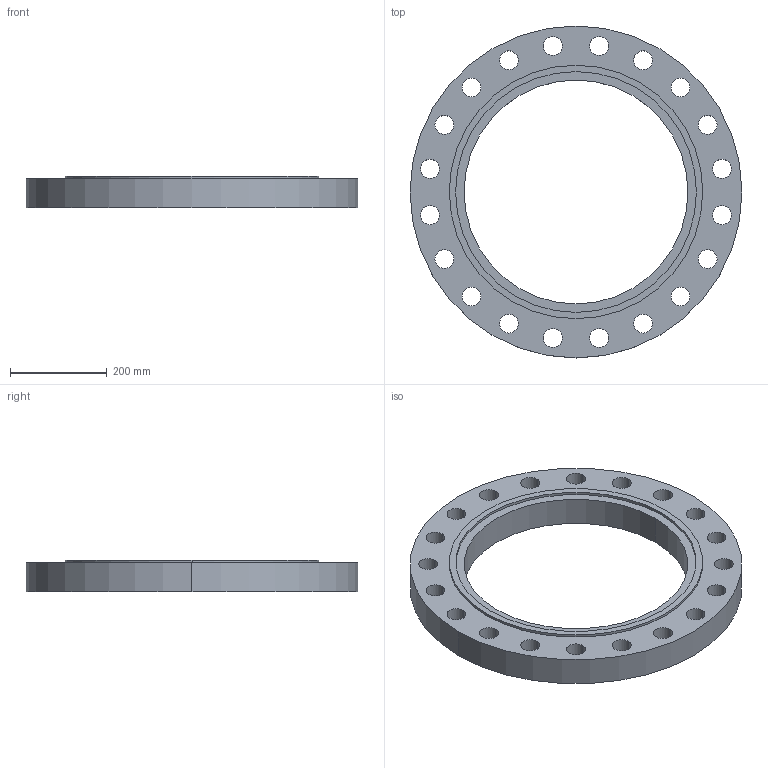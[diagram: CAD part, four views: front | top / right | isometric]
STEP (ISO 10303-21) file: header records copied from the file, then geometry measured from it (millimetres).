
FILE_DESCRIPTION (( 'STEP AP214' ), '1' );
FILE_NAME ('PN40 DN450 Type 01 - Type C Face.STEP', '2018-12-29T02:52:09', ( '' ), ( '' ), 'SwSTEP 2.0', 'SolidWorks 2019', '' );
FILE_SCHEMA (( 'AUTOMOTIVE_DESIGN' ));
Length unit declared in the file: millimetre
Products named in the file (1): PN40 DN450 Type 01 - Type C Face
Bounding box: 685 x 685 x 66 mm (x, y, z)
Volume: 10822944.2 mm3; surface area: 737878.4 mm2
Topology: 1 solids, 1 shells, 52 faces, 144 edges, 96 vertices
Faces by surface type: cylinder 48, plane 4
Entity records: 1842 total; most frequent: DIRECTION 346, CARTESIAN_POINT 293, ORIENTED_EDGE 288, AXIS2_PLACEMENT_3D 149, EDGE_CURVE 144, CIRCLE 96, VERTEX_POINT 96, EDGE_LOOP 96
